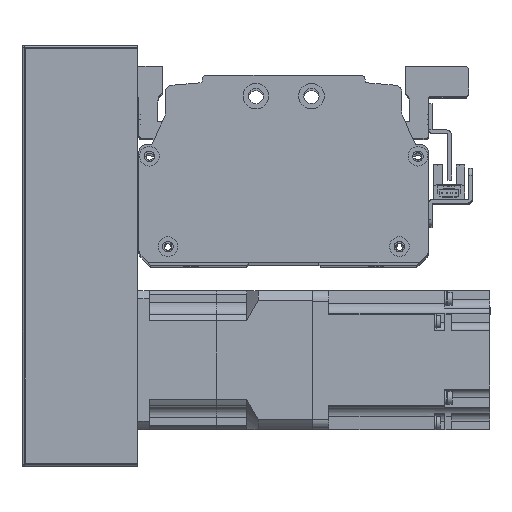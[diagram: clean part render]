
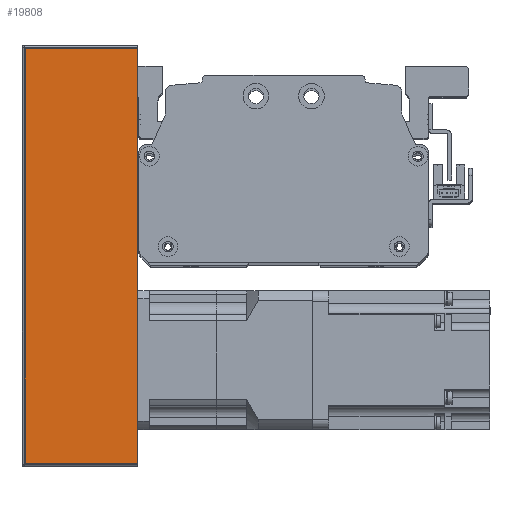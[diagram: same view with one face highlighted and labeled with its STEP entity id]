
A CAD part, top view. The second image highlights one B-rep face of the part: STEP entity #19808.
In plain terms, the highlighted planar face has unit normal (0, 0, 1) as drawn and (0, 1, 0) by its records, which use the part's own axes.
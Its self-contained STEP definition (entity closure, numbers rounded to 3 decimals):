
#609=PLANE('',#21768);
#1812=LINE('',#32609,#3436);
#1829=LINE('',#32663,#3453);
#1834=LINE('',#32687,#3458);
#1853=LINE('',#32750,#3477);
#3436=VECTOR('',#26355,10.);
#3453=VECTOR('',#26408,10.);
#3458=VECTOR('',#26445,10.);
#3477=VECTOR('',#26528,10.);
#5824=FACE_OUTER_BOUND('',#7260,.T.);
#7260=EDGE_LOOP('',(#17111,#17112,#17113,#17114));
#10093=VERTEX_POINT('',#32606);
#10094=VERTEX_POINT('',#32608);
#10112=VERTEX_POINT('',#32660);
#10113=VERTEX_POINT('',#32662);
#12528=EDGE_CURVE('',#10093,#10094,#1812,.T.);
#12556=EDGE_CURVE('',#10112,#10113,#1829,.T.);
#12570=EDGE_CURVE('',#10094,#10112,#1834,.T.);
#12601=EDGE_CURVE('',#10113,#10093,#1853,.T.);
#17111=ORIENTED_EDGE('',*,*,#12556,.F.);
#17112=ORIENTED_EDGE('',*,*,#12570,.F.);
#17113=ORIENTED_EDGE('',*,*,#12528,.F.);
#17114=ORIENTED_EDGE('',*,*,#12601,.F.);
#19808=ADVANCED_FACE('',(#5824),#609,.T.);
#21768=AXIS2_PLACEMENT_3D('',#32749,#26526,#26527);
#26355=DIRECTION('',(-1.,0.,0.));
#26408=DIRECTION('',(1.,0.,0.));
#26445=DIRECTION('',(0.,0.,-1.));
#26526=DIRECTION('center_axis',(0.,1.,0.));
#26527=DIRECTION('ref_axis',(-1.,0.,0.));
#26528=DIRECTION('',(0.,0.,1.));
#32606=CARTESIAN_POINT('',(90.,38.,25.));
#32608=CARTESIAN_POINT('',(-90.,38.,25.));
#32609=CARTESIAN_POINT('',(-91.,38.,25.));
#32660=CARTESIAN_POINT('',(-90.,38.,-24.));
#32662=CARTESIAN_POINT('',(90.,38.,-24.));
#32663=CARTESIAN_POINT('',(45.5,38.,-24.));
#32687=CARTESIAN_POINT('',(-90.,38.,0.));
#32749=CARTESIAN_POINT('Origin',(91.,38.,0.));
#32750=CARTESIAN_POINT('',(90.,38.,0.));
